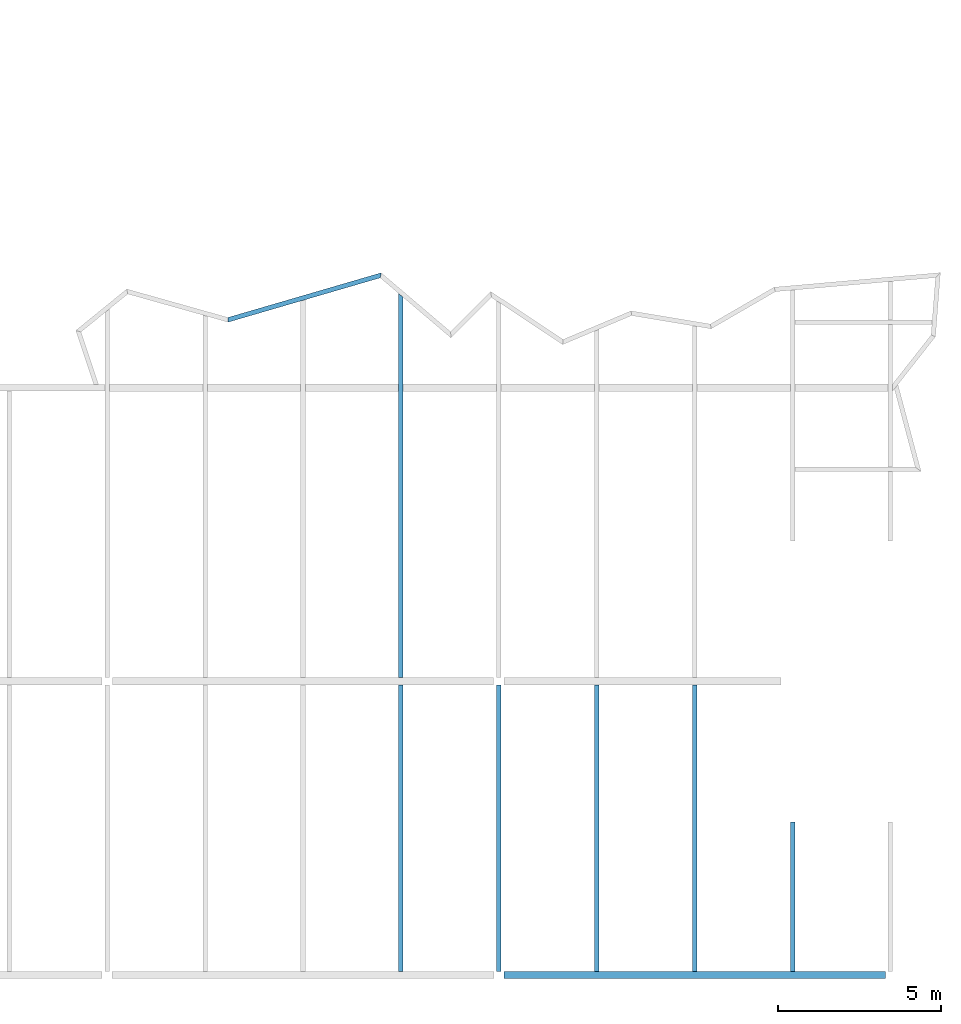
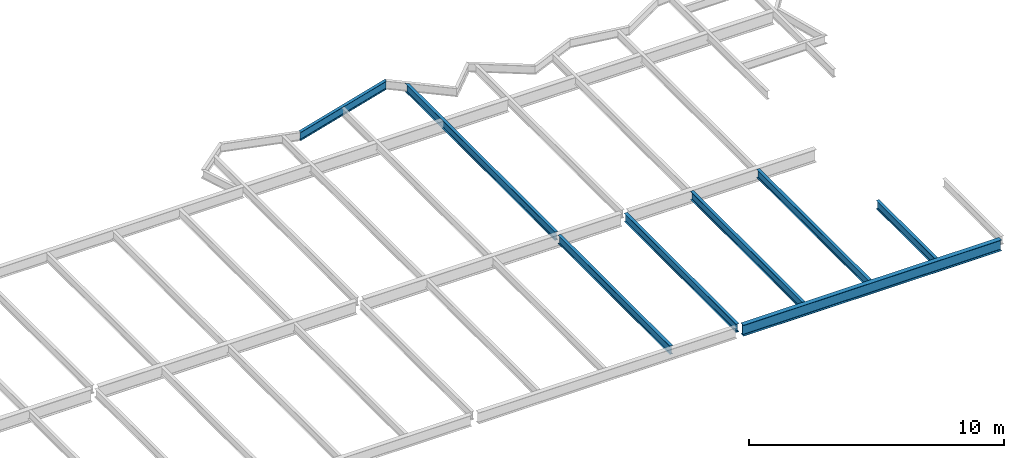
# One storey, part 20 of 23: 8 beams.
"""IFC2X3 building model written with IfcOpenShell, lengths in millimetres."""

import ifcopenshell
import ifcopenshell.guid

model = None  # the IFC model being written
_history = None  # IfcOwnerHistory: only IFC2X3 demands one
_inside = {}  # id of a spatial element -> (the spatial element, [elements in it])
_under = {}  # id of a project, library or spatial element -> (it, [spatial elements below it])
_declared = {}  # id of a project -> (the project, [libraries it declares])
_typed = {}  # id of a type object -> (the type object, [elements of that type])
_made_of = {}  # id of a material, layer set ... -> (it, [elements and type objects made of it])


def new_model(schema):
    """Start an empty IFC model of exactly this schema.

    Asked for "IFC4X3", IfcOpenShell would pick the latest addendum, in which some entities
    have other attributes; the version numbers below select the first issue.
    IFC2X3 requires an IfcOwnerHistory on every rooted entity: one is made here for all.
    """
    global model, _history
    if schema == "IFC4X3":
        model = ifcopenshell.file(schema_version=(4, 3, 0, 0))
    else:
        model = ifcopenshell.file(schema=schema)
    _inside.clear()
    _under.clear()
    _declared.clear()
    _typed.clear()
    _made_of.clear()
    _history = None
    if model.schema == "IFC2X3":
        org = make("IfcOrganization", Name="unknown")
        user = make(
            "IfcPersonAndOrganization",
            ThePerson=make("IfcPerson", FamilyName="unknown"),
            TheOrganization=org,
        )
        app = make(
            "IfcApplication",
            ApplicationDeveloper=org,
            Version="unknown",
            ApplicationFullName="unknown",
            ApplicationIdentifier="unknown",
        )
        _history = make(
            "IfcOwnerHistory",
            OwningUser=user,
            OwningApplication=app,
            ChangeAction="ADDED",
            CreationDate=0,
        )
    return model


def make(cls, **values):
    """One entity of the class cls with the attributes given. An attribute that is None is left unset."""
    return model.create_entity(
        cls, **{name: value for name, value in values.items() if value is not None}
    )


def rooted(cls, **values):
    """An entity with a GlobalId (a new one), such as an element, a storey or a relation."""
    return make(cls, GlobalId=ifcopenshell.guid.new(), OwnerHistory=_history, **values)


def si_unit(unit_type, name, prefix=None):
    """IfcSIUnit, for example si_unit("LENGTHUNIT", "METRE", prefix="MILLI")."""
    return make("IfcSIUnit", UnitType=unit_type, Prefix=prefix, Name=name)


def assignment(units):
    """IfcUnitAssignment: the units of a project."""
    return None if units is None else make("IfcUnitAssignment", Units=units)


def point(xyz):
    """IfcCartesianPoint."""
    return None if xyz is None else make("IfcCartesianPoint", Coordinates=xyz)


def direction(xyz):
    """IfcDirection."""
    return None if xyz is None else make("IfcDirection", DirectionRatios=xyz)


def frame(location, z_axis=None, x_axis=None):
    """IfcAxis2Placement3D, a coordinate frame: its origin and axes. An axis left out is left unset."""
    return make(
        "IfcAxis2Placement3D",
        Location=point(location),
        Axis=direction(z_axis),
        RefDirection=direction(x_axis),
    )


def origin():
    """The frame at (0, 0, 0) with its axes left unset."""
    return frame((0.0, 0.0, 0.0))


def place(relative_to, where):
    """IfcLocalPlacement: puts the frame where relative to a parent placement (None: the world)."""
    return make(
        "IfcLocalPlacement", PlacementRelTo=relative_to, RelativePlacement=where
    )


def context(
    kind, dimensions, precision=None, world=None, true_north=None, identifier=None
):
    """IfcGeometricRepresentationContext, for example the 3D "Model" context."""
    return make(
        "IfcGeometricRepresentationContext",
        ContextIdentifier=identifier,
        ContextType=kind,
        CoordinateSpaceDimension=dimensions,
        Precision=precision,
        WorldCoordinateSystem=world,
        TrueNorth=true_north,
    )


def project(units=None, contexts=None):
    """IfcProject with its units and contexts."""
    return rooted(
        "IfcProject",
        Name="project",
        RepresentationContexts=contexts,
        UnitsInContext=assignment(units),
    )


def spatial(cls, under=None, at=None, **own):
    """A site, building, storey or space (cls), placed at a placement, below another one or the project."""
    s = rooted(cls, ObjectPlacement=at, **own)
    if under is not None:
        _under.setdefault(under.id(), (under, []))[1].append(s)
    return s


def faces_of(points, faces, orient=None, outer=None):
    """IfcFace entities. A face is a list of loops; a loop is a list of indices into points, from 0.

    orient and outer hold one flag for each loop. By default every Orientation is true, the
    first loop of a face is its IfcFaceOuterBound and the others are IfcFaceBound.
    """
    made = []
    for i, loops in enumerate(faces):
        bounds = []
        for j, loop in enumerate(loops):
            is_outer = j == 0 if outer is None else outer[i][j]
            bounds.append(
                make(
                    "IfcFaceOuterBound" if is_outer else "IfcFaceBound",
                    Bound=make("IfcPolyLoop", Polygon=[points[k] for k in loop]),
                    Orientation=True if orient is None else orient[i][j],
                )
            )
        made.append(make("IfcFace", Bounds=bounds))
    return made


def faceted_brep(points, faces, orient=None, outer=None, voids=None):
    """IfcFacetedBrep: a solid bounded by flat faces; with voids (closed shells), ...WithVoids."""
    shared = [point(p) for p in points]
    hull = make("IfcClosedShell", CfsFaces=faces_of(shared, faces, orient, outer))
    if voids is None:
        return make("IfcFacetedBrep", Outer=hull)
    return make(
        "IfcFacetedBrepWithVoids",
        Outer=hull,
        Voids=[
            make(cls, CfsFaces=faces_of(shared, fs, o, b)) for cls, fs, o, b in voids
        ],
    )


def shape(context_of_items, identifier, shape_type, items):
    """IfcShapeRepresentation: the items that make up one representation, for example the "Body"."""
    return make(
        "IfcShapeRepresentation",
        ContextOfItems=context_of_items,
        RepresentationIdentifier=identifier,
        RepresentationType=shape_type,
        Items=items,
    )


def material(Name=None, Category=None):
    """IfcMaterial."""
    return make("IfcMaterial", Name=Name, Category=Category)


def made_of(thing, what):
    """Note that an element or type object is made of a material, layer set ...; save() writes the relation."""
    if what is not None:
        _made_of.setdefault(what.id(), (what, []))[1].append(thing)
    return thing


def element(
    cls,
    number,
    at=None,
    inside=None,
    cuts=None,
    type_object=None,
    material=None,
    context=None,
    identifier="Body",
    shape_type=None,
    held_by="IfcProductDefinitionShape",
    body=None,
    shapes=None,
    **own,
):
    """One element of the class cls, such as IfcWall. Its Tag is "e" and its number.

    at: its placement. inside: the storey or other place that contains it. cuts: it is an
    opening in that element (IfcRelVoidsElement). A single representation is given by context,
    identifier, shape_type and body (its items); several are given by shapes. held_by: the class
    of the entity that holds the representations. save() writes the other relations.
    """
    e = rooted(cls, Tag="e%d" % number, ObjectPlacement=at, **own)
    if body is not None:
        shapes = [shape(context, identifier, shape_type, body)]
    if shapes is not None:
        e.Representation = make(held_by, Representations=shapes)
    if inside is not None:
        _inside.setdefault(inside.id(), (inside, []))[1].append(e)
    if cuts is not None:
        rooted(
            "IfcRelVoidsElement", RelatingBuildingElement=cuts, RelatedOpeningElement=e
        )
    if type_object is not None:
        _typed.setdefault(type_object.id(), (type_object, []))[1].append(e)
    return made_of(e, material)


def aggregate(whole, parts):
    """IfcRelAggregates: a whole, such as a stair, and the parts it consists of."""
    return rooted("IfcRelAggregates", RelatingObject=whole, RelatedObjects=parts)


def save(model, path):
    """Write the relations noted so far, then the file.

    IfcRelAggregates (storeys below a building ...), IfcRelContainedInSpatialStructure (elements
    in a storey), IfcRelDefinesByType, IfcRelAssociatesMaterial and IfcRelDeclares: one each for
    every whole, place, type object, material and project.
    """
    for whole, parts in _under.values():
        aggregate(whole, parts)
    for where, things in _inside.values():
        rooted(
            "IfcRelContainedInSpatialStructure",
            RelatedElements=things,
            RelatingStructure=where,
        )
    for kind, things in _typed.values():
        rooted("IfcRelDefinesByType", RelatedObjects=things, RelatingType=kind)
    for what, things in _made_of.values():
        rooted("IfcRelAssociatesMaterial", RelatedObjects=things, RelatingMaterial=what)
    for by, libraries in _declared.values():
        rooted("IfcRelDeclares", RelatingContext=by, RelatedDefinitions=libraries)
    model.write(path)


model = new_model("IFC2X3")

# Units and contexts
context_of_model = context(None, 3, precision=1e-05, world=origin())
ifc_project = project(units=[si_unit("LENGTHUNIT", "METRE", prefix="MILLI")], contexts=[context_of_model])

# Building, storey
building = spatial("IfcBuilding", under=ifc_project, Name="Building", CompositionType="ELEMENT")
storey = spatial("IfcBuildingStorey", under=building, Name="FL5-FRM", CompositionType="ELEMENT")

# Beams
ifc_material_1 = material(Name="A992")
beam_1_placement = place(None, origin())
element("IfcBeam", 1, at=beam_1_placement, inside=storey, material=ifc_material_1, Name="B839", context=context_of_model, shape_type="Brep", body=[
    faceted_brep([(69070.0, 9104.5, 17474.0), (68930.0, 9104.5, 17474.0), (68930.0, 17885.5, 17474.0), (69070.0, 17885.5, 17474.0), (68930.0, 9104.5, 17482.8), (68930.0, 17885.5, 17482.8), (68986.6, 9104.5, 17482.8), (68986.6, 17885.5, 17482.8), (68989.2, 9104.5, 17483.1), (68989.2, 17885.5, 17483.1), (68991.7, 9104.5, 17484.2), (68991.7, 17885.5, 17484.2), (68993.8, 9104.5, 17485.8), (68993.8, 17885.5, 17485.8), (68995.4, 9104.5, 17487.9), (68995.4, 17885.5, 17487.9), (68996.5, 9104.5, 17490.4), (68996.5, 17885.5, 17490.4), (68996.8, 9104.5, 17493.0), (68996.8, 17885.5, 17493.0), (68996.8, 9104.5, 17854.0), (68996.8, 17885.5, 17854.0), (68996.5, 9104.5, 17856.6), (68996.5, 17885.5, 17856.6), (68995.4, 9104.5, 17859.1), (68995.4, 17885.5, 17859.1), (68993.8, 9104.5, 17861.2), (68993.8, 17885.5, 17861.2), (68991.7, 9104.5, 17862.8), (68991.7, 17885.5, 17862.8), (68989.2, 9104.5, 17863.9), (68989.2, 17885.5, 17863.9), (68986.6, 9104.5, 17864.2), (68986.6, 17885.5, 17864.2), (68930.0, 9104.5, 17864.2), (68930.0, 17885.5, 17864.2), (68930.0, 9104.5, 17873.0), (68930.0, 17885.5, 17873.0), (69070.0, 9104.5, 17873.0), (69070.0, 17885.5, 17873.0), (69070.0, 9104.5, 17864.2), (69070.0, 17885.5, 17864.2), (69013.4, 9104.5, 17864.2), (69013.4, 17885.5, 17864.2), (69010.8, 9104.5, 17863.9), (69010.8, 17885.5, 17863.9), (69008.3, 9104.5, 17862.8), (69008.3, 17885.5, 17862.8), (69006.2, 9104.5, 17861.2), (69006.2, 17885.5, 17861.2), (69004.6, 9104.5, 17859.1), (69004.6, 17885.5, 17859.1), (69003.5, 9104.5, 17856.6), (69003.5, 17885.5, 17856.6), (69003.2, 9104.5, 17854.0), (69003.2, 17885.5, 17854.0), (69003.2, 9104.5, 17493.0), (69003.2, 17885.5, 17493.0), (69003.5, 9104.5, 17490.4), (69003.5, 17885.5, 17490.4), (69004.6, 9104.5, 17487.9), (69004.6, 17885.5, 17487.9), (69006.2, 9104.5, 17485.8), (69006.2, 17885.5, 17485.8), (69008.3, 9104.5, 17484.2), (69008.3, 17885.5, 17484.2), (69010.8, 9104.5, 17483.1), (69010.8, 17885.5, 17483.1), (69013.4, 9104.5, 17482.8), (69013.4, 17885.5, 17482.8), (69070.0, 9104.5, 17482.8), (69070.0, 17885.5, 17482.8)], [[[0, 1, 2, 3]], [[1, 4, 5, 2]], [[4, 6, 7, 5]], [[6, 8, 9, 7]], [[8, 10, 11, 9]], [[10, 12, 13, 11]], [[12, 14, 15, 13]], [[14, 16, 17, 15]], [[16, 18, 19, 17]], [[18, 20, 21, 19]], [[20, 22, 23, 21]], [[22, 24, 25, 23]], [[24, 26, 27, 25]], [[26, 28, 29, 27]], [[28, 30, 31, 29]], [[30, 32, 33, 31]], [[32, 34, 35, 33]], [[34, 36, 37, 35]], [[36, 38, 39, 37]], [[38, 40, 41, 39]], [[40, 42, 43, 41]], [[42, 44, 45, 43]], [[44, 46, 47, 45]], [[46, 48, 49, 47]], [[48, 50, 51, 49]], [[50, 52, 53, 51]], [[52, 54, 55, 53]], [[54, 56, 57, 55]], [[56, 58, 59, 57]], [[58, 60, 61, 59]], [[60, 62, 63, 61]], [[62, 64, 65, 63]], [[64, 66, 67, 65]], [[66, 68, 69, 67]], [[68, 70, 71, 69]], [[70, 0, 3, 71]], [[0, 70, 68, 66, 64, 62, 60, 58, 56, 54, 52, 50, 48, 46, 44, 42, 40, 38, 36, 34, 32, 30, 28, 26, 24, 22, 20, 18, 16, 14, 12, 10, 8, 6, 4, 1]], [[3, 2, 5, 7, 9, 11, 13, 15, 17, 19, 21, 23, 25, 27, 29, 31, 33, 35, 37, 39, 41, 43, 45, 47, 49, 51, 53, 55, 57, 59, 61, 63, 65, 67, 69, 71]]]),
])
ifc_material_2 = material(Name="A992")
beam_2_placement = place(None, origin())
element("IfcBeam", 2, at=beam_2_placement, inside=storey, material=ifc_material_2, Name="B845", context=context_of_model, shape_type="Brep", body=[
    faceted_brep([(75070.0, 9104.5, 17474.0), (74930.0, 9104.5, 17474.0), (74930.0, 17885.5, 17474.0), (75070.0, 17885.5, 17474.0), (74930.0, 9104.5, 17482.8), (74930.0, 17885.5, 17482.8), (74986.6, 9104.5, 17482.8), (74986.6, 17885.5, 17482.8), (74989.2, 9104.5, 17483.1), (74989.2, 17885.5, 17483.1), (74991.7, 9104.5, 17484.2), (74991.7, 17885.5, 17484.2), (74993.8, 9104.5, 17485.8), (74993.8, 17885.5, 17485.8), (74995.4, 9104.5, 17487.9), (74995.4, 17885.5, 17487.9), (74996.5, 9104.5, 17490.4), (74996.5, 17885.5, 17490.4), (74996.8, 9104.5, 17493.0), (74996.8, 17885.5, 17493.0), (74996.8, 9104.5, 17854.0), (74996.8, 17885.5, 17854.0), (74996.5, 9104.5, 17856.6), (74996.5, 17885.5, 17856.6), (74995.4, 9104.5, 17859.1), (74995.4, 17885.5, 17859.1), (74993.8, 9104.5, 17861.2), (74993.8, 17885.5, 17861.2), (74991.7, 9104.5, 17862.8), (74991.7, 17885.5, 17862.8), (74989.2, 9104.5, 17863.9), (74989.2, 17885.5, 17863.9), (74986.6, 9104.5, 17864.2), (74986.6, 17885.5, 17864.2), (74930.0, 9104.5, 17864.2), (74930.0, 17885.5, 17864.2), (74930.0, 9104.5, 17873.0), (74930.0, 17885.5, 17873.0), (75070.0, 9104.5, 17873.0), (75070.0, 17885.5, 17873.0), (75070.0, 9104.5, 17864.2), (75070.0, 17885.5, 17864.2), (75013.4, 9104.5, 17864.2), (75013.4, 17885.5, 17864.2), (75010.8, 9104.5, 17863.9), (75010.8, 17885.5, 17863.9), (75008.3, 9104.5, 17862.8), (75008.3, 17885.5, 17862.8), (75006.2, 9104.5, 17861.2), (75006.2, 17885.5, 17861.2), (75004.6, 9104.5, 17859.1), (75004.6, 17885.5, 17859.1), (75003.5, 9104.5, 17856.6), (75003.5, 17885.5, 17856.6), (75003.2, 9104.5, 17854.0), (75003.2, 17885.5, 17854.0), (75003.2, 9104.5, 17493.0), (75003.2, 17885.5, 17493.0), (75003.5, 9104.5, 17490.4), (75003.5, 17885.5, 17490.4), (75004.6, 9104.5, 17487.9), (75004.6, 17885.5, 17487.9), (75006.2, 9104.5, 17485.8), (75006.2, 17885.5, 17485.8), (75008.3, 9104.5, 17484.2), (75008.3, 17885.5, 17484.2), (75010.8, 9104.5, 17483.1), (75010.8, 17885.5, 17483.1), (75013.4, 9104.5, 17482.8), (75013.4, 17885.5, 17482.8), (75070.0, 9104.5, 17482.8), (75070.0, 17885.5, 17482.8)], [[[0, 1, 2, 3]], [[1, 4, 5, 2]], [[4, 6, 7, 5]], [[6, 8, 9, 7]], [[8, 10, 11, 9]], [[10, 12, 13, 11]], [[12, 14, 15, 13]], [[14, 16, 17, 15]], [[16, 18, 19, 17]], [[18, 20, 21, 19]], [[20, 22, 23, 21]], [[22, 24, 25, 23]], [[24, 26, 27, 25]], [[26, 28, 29, 27]], [[28, 30, 31, 29]], [[30, 32, 33, 31]], [[32, 34, 35, 33]], [[34, 36, 37, 35]], [[36, 38, 39, 37]], [[38, 40, 41, 39]], [[40, 42, 43, 41]], [[42, 44, 45, 43]], [[44, 46, 47, 45]], [[46, 48, 49, 47]], [[48, 50, 51, 49]], [[50, 52, 53, 51]], [[52, 54, 55, 53]], [[54, 56, 57, 55]], [[56, 58, 59, 57]], [[58, 60, 61, 59]], [[60, 62, 63, 61]], [[62, 64, 65, 63]], [[64, 66, 67, 65]], [[66, 68, 69, 67]], [[68, 70, 71, 69]], [[70, 0, 3, 71]], [[0, 70, 68, 66, 64, 62, 60, 58, 56, 54, 52, 50, 48, 46, 44, 42, 40, 38, 36, 34, 32, 30, 28, 26, 24, 22, 20, 18, 16, 14, 12, 10, 8, 6, 4, 1]], [[3, 2, 5, 7, 9, 11, 13, 15, 17, 19, 21, 23, 25, 27, 29, 31, 33, 35, 37, 39, 41, 43, 45, 47, 49, 51, 53, 55, 57, 59, 61, 63, 65, 67, 69, 71]]]),
])
ifc_material_3 = material(Name="A992")
beam_3_placement = place(None, origin())
element("IfcBeam", 3, at=beam_3_placement, inside=storey, material=ifc_material_3, Name="B846", context=context_of_model, shape_type="Brep", body=[
    faceted_brep([(78070.0, 9104.5, 17474.0), (77930.0, 9104.5, 17474.0), (77930.0, 17885.5, 17474.0), (78070.0, 17885.5, 17474.0), (77930.0, 9104.5, 17482.8), (77930.0, 17885.5, 17482.8), (77986.6, 9104.5, 17482.8), (77986.6, 17885.5, 17482.8), (77989.2, 9104.5, 17483.1), (77989.2, 17885.5, 17483.1), (77991.7, 9104.5, 17484.2), (77991.7, 17885.5, 17484.2), (77993.8, 9104.5, 17485.8), (77993.8, 17885.5, 17485.8), (77995.4, 9104.5, 17487.9), (77995.4, 17885.5, 17487.9), (77996.5, 9104.5, 17490.4), (77996.5, 17885.5, 17490.4), (77996.8, 9104.5, 17493.0), (77996.8, 17885.5, 17493.0), (77996.8, 9104.5, 17854.0), (77996.8, 17885.5, 17854.0), (77996.5, 9104.5, 17856.6), (77996.5, 17885.5, 17856.6), (77995.4, 9104.5, 17859.1), (77995.4, 17885.5, 17859.1), (77993.8, 9104.5, 17861.2), (77993.8, 17885.5, 17861.2), (77991.7, 9104.5, 17862.8), (77991.7, 17885.5, 17862.8), (77989.2, 9104.5, 17863.9), (77989.2, 17885.5, 17863.9), (77986.6, 9104.5, 17864.2), (77986.6, 17885.5, 17864.2), (77930.0, 9104.5, 17864.2), (77930.0, 17885.5, 17864.2), (77930.0, 9104.5, 17873.0), (77930.0, 17885.5, 17873.0), (78070.0, 9104.5, 17873.0), (78070.0, 17885.5, 17873.0), (78070.0, 9104.5, 17864.2), (78070.0, 17885.5, 17864.2), (78013.4, 9104.5, 17864.2), (78013.4, 17885.5, 17864.2), (78010.8, 9104.5, 17863.9), (78010.8, 17885.5, 17863.9), (78008.3, 9104.5, 17862.8), (78008.3, 17885.5, 17862.8), (78006.2, 9104.5, 17861.2), (78006.2, 17885.5, 17861.2), (78004.6, 9104.5, 17859.1), (78004.6, 17885.5, 17859.1), (78003.5, 9104.5, 17856.6), (78003.5, 17885.5, 17856.6), (78003.2, 9104.5, 17854.0), (78003.2, 17885.5, 17854.0), (78003.2, 9104.5, 17493.0), (78003.2, 17885.5, 17493.0), (78003.5, 9104.5, 17490.4), (78003.5, 17885.5, 17490.4), (78004.6, 9104.5, 17487.9), (78004.6, 17885.5, 17487.9), (78006.2, 9104.5, 17485.8), (78006.2, 17885.5, 17485.8), (78008.3, 9104.5, 17484.2), (78008.3, 17885.5, 17484.2), (78010.8, 9104.5, 17483.1), (78010.8, 17885.5, 17483.1), (78013.4, 9104.5, 17482.8), (78013.4, 17885.5, 17482.8), (78070.0, 9104.5, 17482.8), (78070.0, 17885.5, 17482.8)], [[[0, 1, 2, 3]], [[1, 4, 5, 2]], [[4, 6, 7, 5]], [[6, 8, 9, 7]], [[8, 10, 11, 9]], [[10, 12, 13, 11]], [[12, 14, 15, 13]], [[14, 16, 17, 15]], [[16, 18, 19, 17]], [[18, 20, 21, 19]], [[20, 22, 23, 21]], [[22, 24, 25, 23]], [[24, 26, 27, 25]], [[26, 28, 29, 27]], [[28, 30, 31, 29]], [[30, 32, 33, 31]], [[32, 34, 35, 33]], [[34, 36, 37, 35]], [[36, 38, 39, 37]], [[38, 40, 41, 39]], [[40, 42, 43, 41]], [[42, 44, 45, 43]], [[44, 46, 47, 45]], [[46, 48, 49, 47]], [[48, 50, 51, 49]], [[50, 52, 53, 51]], [[52, 54, 55, 53]], [[54, 56, 57, 55]], [[56, 58, 59, 57]], [[58, 60, 61, 59]], [[60, 62, 63, 61]], [[62, 64, 65, 63]], [[64, 66, 67, 65]], [[66, 68, 69, 67]], [[68, 70, 71, 69]], [[70, 0, 3, 71]], [[0, 70, 68, 66, 64, 62, 60, 58, 56, 54, 52, 50, 48, 46, 44, 42, 40, 38, 36, 34, 32, 30, 28, 26, 24, 22, 20, 18, 16, 14, 12, 10, 8, 6, 4, 1]], [[3, 2, 5, 7, 9, 11, 13, 15, 17, 19, 21, 23, 25, 27, 29, 31, 33, 35, 37, 39, 41, 43, 45, 47, 49, 51, 53, 55, 57, 59, 61, 63, 65, 67, 69, 71]]]),
])
ifc_material_4 = material(Name="A992")
beam_4_placement = place(None, origin())
element("IfcBeam", 4, at=beam_4_placement, inside=storey, material=ifc_material_4, Name="B847", context=context_of_model, shape_type="Brep", body=[
    faceted_brep([(81070.0, 9104.5, 17474.0), (80930.0, 9104.5, 17474.0), (80930.0, 13700.0, 17474.0), (81070.0, 13700.0, 17474.0), (80930.0, 9104.5, 17482.8), (80930.0, 13700.0, 17482.8), (80986.6, 9104.5, 17482.8), (80986.6, 13700.0, 17482.8), (80989.2, 9104.5, 17483.1), (80989.2, 13700.0, 17483.1), (80991.7, 9104.5, 17484.2), (80991.7, 13700.0, 17484.2), (80993.8, 9104.5, 17485.8), (80993.8, 13700.0, 17485.8), (80995.4, 9104.5, 17487.9), (80995.4, 13700.0, 17487.9), (80996.5, 9104.5, 17490.4), (80996.5, 13700.0, 17490.4), (80996.8, 9104.5, 17493.0), (80996.8, 13700.0, 17493.0), (80996.8, 9104.5, 17854.0), (80996.8, 13700.0, 17854.0), (80996.5, 9104.5, 17856.6), (80996.5, 13700.0, 17856.6), (80995.4, 9104.5, 17859.1), (80995.4, 13700.0, 17859.1), (80993.8, 9104.5, 17861.2), (80993.8, 13700.0, 17861.2), (80991.7, 9104.5, 17862.8), (80991.7, 13700.0, 17862.8), (80989.2, 9104.5, 17863.9), (80989.2, 13700.0, 17863.9), (80986.6, 9104.5, 17864.2), (80986.6, 13700.0, 17864.2), (80930.0, 9104.5, 17864.2), (80930.0, 13700.0, 17864.2), (80930.0, 9104.5, 17873.0), (80930.0, 13700.0, 17873.0), (81070.0, 9104.5, 17873.0), (81070.0, 13700.0, 17873.0), (81070.0, 9104.5, 17864.2), (81070.0, 13700.0, 17864.2), (81013.4, 9104.5, 17864.2), (81013.4, 13700.0, 17864.2), (81010.8, 9104.5, 17863.9), (81010.8, 13700.0, 17863.9), (81008.3, 9104.5, 17862.8), (81008.3, 13700.0, 17862.8), (81006.2, 9104.5, 17861.2), (81006.2, 13700.0, 17861.2), (81004.6, 9104.5, 17859.1), (81004.6, 13700.0, 17859.1), (81003.5, 9104.5, 17856.6), (81003.5, 13700.0, 17856.6), (81003.2, 9104.5, 17854.0), (81003.2, 13700.0, 17854.0), (81003.2, 9104.5, 17493.0), (81003.2, 13700.0, 17493.0), (81003.5, 9104.5, 17490.4), (81003.5, 13700.0, 17490.4), (81004.6, 9104.5, 17487.9), (81004.6, 13700.0, 17487.9), (81006.2, 9104.5, 17485.8), (81006.2, 13700.0, 17485.8), (81008.3, 9104.5, 17484.2), (81008.3, 13700.0, 17484.2), (81010.8, 9104.5, 17483.1), (81010.8, 13700.0, 17483.1), (81013.4, 9104.5, 17482.8), (81013.4, 13700.0, 17482.8), (81070.0, 9104.5, 17482.8), (81070.0, 13700.0, 17482.8)], [[[0, 1, 2, 3]], [[1, 4, 5, 2]], [[4, 6, 7, 5]], [[6, 8, 9, 7]], [[8, 10, 11, 9]], [[10, 12, 13, 11]], [[12, 14, 15, 13]], [[14, 16, 17, 15]], [[16, 18, 19, 17]], [[18, 20, 21, 19]], [[20, 22, 23, 21]], [[22, 24, 25, 23]], [[24, 26, 27, 25]], [[26, 28, 29, 27]], [[28, 30, 31, 29]], [[30, 32, 33, 31]], [[32, 34, 35, 33]], [[34, 36, 37, 35]], [[36, 38, 39, 37]], [[38, 40, 41, 39]], [[40, 42, 43, 41]], [[42, 44, 45, 43]], [[44, 46, 47, 45]], [[46, 48, 49, 47]], [[48, 50, 51, 49]], [[50, 52, 53, 51]], [[52, 54, 55, 53]], [[54, 56, 57, 55]], [[56, 58, 59, 57]], [[58, 60, 61, 59]], [[60, 62, 63, 61]], [[62, 64, 65, 63]], [[64, 66, 67, 65]], [[66, 68, 69, 67]], [[68, 70, 71, 69]], [[70, 0, 3, 71]], [[0, 70, 68, 66, 64, 62, 60, 58, 56, 54, 52, 50, 48, 46, 44, 42, 40, 38, 36, 34, 32, 30, 28, 26, 24, 22, 20, 18, 16, 14, 12, 10, 8, 6, 4, 1]], [[3, 2, 5, 7, 9, 11, 13, 15, 17, 19, 21, 23, 25, 27, 29, 31, 33, 35, 37, 39, 41, 43, 45, 47, 49, 51, 53, 55, 57, 59, 61, 63, 65, 67, 69, 71]]]),
])
ifc_material_5 = material(Name="A992")
beam_5_placement = place(None, origin())
element("IfcBeam", 5, at=beam_5_placement, inside=storey, material=ifc_material_5, Name="B848", context=context_of_model, shape_type="Brep", body=[
    faceted_brep([(72070.0, 9104.5, 17474.0), (71930.0, 9104.5, 17474.0), (71930.0, 17885.5, 17474.0), (72070.0, 17885.5, 17474.0), (71930.0, 9104.5, 17482.8), (71930.0, 17885.5, 17482.8), (71986.6, 9104.5, 17482.8), (71986.6, 17885.5, 17482.8), (71989.2, 9104.5, 17483.1), (71989.2, 17885.5, 17483.1), (71991.7, 9104.5, 17484.2), (71991.7, 17885.5, 17484.2), (71993.8, 9104.5, 17485.8), (71993.8, 17885.5, 17485.8), (71995.4, 9104.5, 17487.9), (71995.4, 17885.5, 17487.9), (71996.5, 9104.5, 17490.4), (71996.5, 17885.5, 17490.4), (71996.8, 9104.5, 17493.0), (71996.8, 17885.5, 17493.0), (71996.8, 9104.5, 17854.0), (71996.8, 17885.5, 17854.0), (71996.5, 9104.5, 17856.6), (71996.5, 17885.5, 17856.6), (71995.4, 9104.5, 17859.1), (71995.4, 17885.5, 17859.1), (71993.8, 9104.5, 17861.2), (71993.8, 17885.5, 17861.2), (71991.7, 9104.5, 17862.8), (71991.7, 17885.5, 17862.8), (71989.2, 9104.5, 17863.9), (71989.2, 17885.5, 17863.9), (71986.6, 9104.5, 17864.2), (71986.6, 17885.5, 17864.2), (71930.0, 9104.5, 17864.2), (71930.0, 17885.5, 17864.2), (71930.0, 9104.5, 17873.0), (71930.0, 17885.5, 17873.0), (72070.0, 9104.5, 17873.0), (72070.0, 17885.5, 17873.0), (72070.0, 9104.5, 17864.2), (72070.0, 17885.5, 17864.2), (72013.4, 9104.5, 17864.2), (72013.4, 17885.5, 17864.2), (72010.8, 9104.5, 17863.9), (72010.8, 17885.5, 17863.9), (72008.3, 9104.5, 17862.8), (72008.3, 17885.5, 17862.8), (72006.2, 9104.5, 17861.2), (72006.2, 17885.5, 17861.2), (72004.6, 9104.5, 17859.1), (72004.6, 17885.5, 17859.1), (72003.5, 9104.5, 17856.6), (72003.5, 17885.5, 17856.6), (72003.2, 9104.5, 17854.0), (72003.2, 17885.5, 17854.0), (72003.2, 9104.5, 17493.0), (72003.2, 17885.5, 17493.0), (72003.5, 9104.5, 17490.4), (72003.5, 17885.5, 17490.4), (72004.6, 9104.5, 17487.9), (72004.6, 17885.5, 17487.9), (72006.2, 9104.5, 17485.8), (72006.2, 17885.5, 17485.8), (72008.3, 9104.5, 17484.2), (72008.3, 17885.5, 17484.2), (72010.8, 9104.5, 17483.1), (72010.8, 17885.5, 17483.1), (72013.4, 9104.5, 17482.8), (72013.4, 17885.5, 17482.8), (72070.0, 9104.5, 17482.8), (72070.0, 17885.5, 17482.8)], [[[0, 1, 2, 3]], [[1, 4, 5, 2]], [[4, 6, 7, 5]], [[6, 8, 9, 7]], [[8, 10, 11, 9]], [[10, 12, 13, 11]], [[12, 14, 15, 13]], [[14, 16, 17, 15]], [[16, 18, 19, 17]], [[18, 20, 21, 19]], [[20, 22, 23, 21]], [[22, 24, 25, 23]], [[24, 26, 27, 25]], [[26, 28, 29, 27]], [[28, 30, 31, 29]], [[30, 32, 33, 31]], [[32, 34, 35, 33]], [[34, 36, 37, 35]], [[36, 38, 39, 37]], [[38, 40, 41, 39]], [[40, 42, 43, 41]], [[42, 44, 45, 43]], [[44, 46, 47, 45]], [[46, 48, 49, 47]], [[48, 50, 51, 49]], [[50, 52, 53, 51]], [[52, 54, 55, 53]], [[54, 56, 57, 55]], [[56, 58, 59, 57]], [[58, 60, 61, 59]], [[60, 62, 63, 61]], [[62, 64, 65, 63]], [[64, 66, 67, 65]], [[66, 68, 69, 67]], [[68, 70, 71, 69]], [[70, 0, 3, 71]], [[0, 70, 68, 66, 64, 62, 60, 58, 56, 54, 52, 50, 48, 46, 44, 42, 40, 38, 36, 34, 32, 30, 28, 26, 24, 22, 20, 18, 16, 14, 12, 10, 8, 6, 4, 1]], [[3, 2, 5, 7, 9, 11, 13, 15, 17, 19, 21, 23, 25, 27, 29, 31, 33, 35, 37, 39, 41, 43, 45, 47, 49, 51, 53, 55, 57, 59, 61, 63, 65, 67, 69, 71]]]),
])
ifc_material_6 = material(Name="A992")
beam_6_placement = place(None, origin())
element("IfcBeam", 6, at=beam_6_placement, inside=storey, material=ifc_material_6, Name="Column599", context=context_of_model, shape_type="Brep", body=[
    faceted_brep([(72153.0, 8895.5, 17345.0), (72153.0, 9104.5, 17345.0), (83848.5, 9104.5, 17345.0), (83848.5, 8895.5, 17345.0), (72153.0, 9104.5, 17358.3), (83848.5, 9104.5, 17358.3), (72153.0, 9017.45, 17358.3), (83848.5, 9017.45, 17358.3), (72153.0, 9014.16, 17358.7), (83848.5, 9014.16, 17358.7), (72153.0, 9011.1, 17360.0), (83848.5, 9011.1, 17360.0), (72153.0, 9008.47, 17362.0), (83848.5, 9008.47, 17362.0), (72153.0, 9006.45, 17364.7), (83848.5, 9006.45, 17364.7), (72153.0, 9005.18, 17367.7), (83848.5, 9005.18, 17367.7), (72153.0, 9004.75, 17371.0), (83848.5, 9004.75, 17371.0), (72153.0, 9004.75, 17847.0), (83848.5, 9004.75, 17847.0), (72153.0, 9005.18, 17850.3), (83848.5, 9005.18, 17850.3), (72153.0, 9006.45, 17853.3), (83848.5, 9006.45, 17853.3), (72153.0, 9008.47, 17856.0), (83848.5, 9008.47, 17856.0), (72153.0, 9011.1, 17858.0), (83848.5, 9011.1, 17858.0), (72153.0, 9014.16, 17859.3), (83848.5, 9014.16, 17859.3), (72153.0, 9017.45, 17859.7), (83848.5, 9017.45, 17859.7), (72153.0, 9104.5, 17859.7), (83848.5, 9104.5, 17859.7), (72153.0, 9104.5, 17873.0), (83848.5, 9104.5, 17873.0), (72153.0, 8895.5, 17873.0), (83848.5, 8895.5, 17873.0), (72153.0, 8895.5, 17859.7), (83848.5, 8895.5, 17859.7), (72153.0, 8982.55, 17859.7), (83848.5, 8982.55, 17859.7), (72153.0, 8985.84, 17859.3), (83848.5, 8985.84, 17859.3), (72153.0, 8988.9, 17858.0), (83848.5, 8988.9, 17858.0), (72153.0, 8991.53, 17856.0), (83848.5, 8991.53, 17856.0), (72153.0, 8993.55, 17853.3), (83848.5, 8993.55, 17853.3), (72153.0, 8994.82, 17850.3), (83848.5, 8994.82, 17850.3), (72153.0, 8995.25, 17847.0), (83848.5, 8995.25, 17847.0), (72153.0, 8995.25, 17371.0), (83848.5, 8995.25, 17371.0), (72153.0, 8994.82, 17367.7), (83848.5, 8994.82, 17367.7), (72153.0, 8993.55, 17364.7), (83848.5, 8993.55, 17364.7), (72153.0, 8991.53, 17362.0), (83848.5, 8991.53, 17362.0), (72153.0, 8988.9, 17360.0), (83848.5, 8988.9, 17360.0), (72153.0, 8985.84, 17358.7), (83848.5, 8985.84, 17358.7), (72153.0, 8982.55, 17358.3), (83848.5, 8982.55, 17358.3), (72153.0, 8895.5, 17358.3), (83848.5, 8895.5, 17358.3)], [[[0, 1, 2, 3]], [[1, 4, 5, 2]], [[4, 6, 7, 5]], [[6, 8, 9, 7]], [[8, 10, 11, 9]], [[10, 12, 13, 11]], [[12, 14, 15, 13]], [[14, 16, 17, 15]], [[16, 18, 19, 17]], [[18, 20, 21, 19]], [[20, 22, 23, 21]], [[22, 24, 25, 23]], [[24, 26, 27, 25]], [[26, 28, 29, 27]], [[28, 30, 31, 29]], [[30, 32, 33, 31]], [[32, 34, 35, 33]], [[34, 36, 37, 35]], [[36, 38, 39, 37]], [[38, 40, 41, 39]], [[40, 42, 43, 41]], [[42, 44, 45, 43]], [[44, 46, 47, 45]], [[46, 48, 49, 47]], [[48, 50, 51, 49]], [[50, 52, 53, 51]], [[52, 54, 55, 53]], [[54, 56, 57, 55]], [[56, 58, 59, 57]], [[58, 60, 61, 59]], [[60, 62, 63, 61]], [[62, 64, 65, 63]], [[64, 66, 67, 65]], [[66, 68, 69, 67]], [[68, 70, 71, 69]], [[70, 0, 3, 71]], [[0, 70, 68, 66, 64, 62, 60, 58, 56, 54, 52, 50, 48, 46, 44, 42, 40, 38, 36, 34, 32, 30, 28, 26, 24, 22, 20, 18, 16, 14, 12, 10, 8, 6, 4, 1]], [[3, 2, 5, 7, 9, 11, 13, 15, 17, 19, 21, 23, 25, 27, 29, 31, 33, 35, 37, 39, 41, 43, 45, 47, 49, 51, 53, 55, 57, 59, 61, 63, 65, 67, 69, 71]]]),
])
ifc_material_7 = material(Name="A992")
beam_7_placement = place(None, origin())
element("IfcBeam", 7, at=beam_7_placement, inside=storey, material=ifc_material_7, Name="B948", context=context_of_model, shape_type="Brep", body=[
    faceted_brep([(68930.0, 29886.4, 17474.0), (69070.0, 29767.4, 17474.0), (69070.0, 18114.5, 17474.0), (68930.0, 18114.5, 17474.0), (69070.0, 29767.4, 17482.8), (69070.0, 18114.5, 17482.8), (69013.4, 29815.5, 17482.8), (69013.4, 18114.5, 17482.8), (69012.0, 29816.7, 17482.9), (69011.9, 18114.5, 17482.9), (69010.5, 29818.0, 17483.2), (69010.5, 18114.5, 17483.2), (69009.2, 29819.1, 17483.7), (69009.2, 18114.5, 17483.7), (69007.9, 29820.2, 17484.4), (69007.9, 18114.5, 17484.4), (69006.7, 29821.2, 17485.3), (69006.7, 18114.5, 17485.3), (69005.7, 29822.1, 17486.3), (69005.7, 18114.5, 17486.3), (69004.8, 29822.8, 17487.4), (69004.8, 18114.5, 17487.5), (69004.1, 29823.4, 17488.7), (69004.1, 18114.5, 17488.8), (69003.6, 29823.8, 17490.1), (69003.6, 18114.5, 17490.1), (69003.3, 29824.1, 17491.5), (69003.3, 18114.5, 17491.5), (69003.2, 29824.2, 17493.0), (69003.2, 18114.5, 17493.0), (69003.2, 29824.2, 17854.0), (69003.2, 18114.5, 17854.0), (69003.3, 29824.1, 17855.5), (69003.3, 18114.5, 17855.5), (69003.6, 29823.8, 17856.9), (69003.6, 18114.5, 17856.9), (69004.1, 29823.4, 17858.3), (69004.1, 18114.5, 17858.2), (69004.8, 29822.8, 17859.6), (69004.8, 18114.5, 17859.5), (69005.7, 29822.1, 17860.7), (69005.7, 18114.5, 17860.7), (69006.7, 29821.2, 17861.7), (69006.7, 18114.5, 17861.7), (69007.9, 29820.2, 17862.6), (69007.9, 18114.5, 17862.6), (69009.2, 29819.1, 17863.3), (69009.2, 18114.5, 17863.3), (69010.5, 29818.0, 17863.8), (69010.5, 18114.5, 17863.8), (69012.0, 29816.7, 17864.1), (69011.9, 18114.5, 17864.1), (69013.4, 29815.5, 17864.2), (69013.4, 18114.5, 17864.2), (69070.0, 29767.4, 17864.2), (69070.0, 18114.5, 17864.2), (69070.0, 29767.4, 17873.0), (69070.0, 18114.5, 17873.0), (68930.0, 29886.4, 17873.0), (68930.0, 18114.5, 17873.0), (68930.0, 29886.4, 17864.2), (68930.0, 18114.5, 17864.2), (68986.6, 29838.3, 17864.2), (68986.6, 18114.5, 17864.2), (68988.0, 29837.1, 17864.1), (68988.1, 18114.5, 17864.1), (68989.5, 29835.9, 17863.8), (68989.5, 18114.5, 17863.8), (68990.8, 29834.7, 17863.3), (68990.8, 18114.5, 17863.3), (68992.1, 29833.6, 17862.6), (68992.1, 18114.5, 17862.6), (68993.3, 29832.6, 17861.7), (68993.3, 18114.5, 17861.7), (68994.3, 29831.8, 17860.7), (68994.3, 18114.5, 17860.7), (68995.2, 29831.0, 17859.6), (68995.2, 18114.5, 17859.5), (68995.9, 29830.4, 17858.3), (68995.9, 18114.5, 17858.2), (68996.4, 29830.0, 17856.9), (68996.4, 18114.5, 17856.9), (68996.7, 29829.7, 17855.5), (68996.7, 18114.5, 17855.5), (68996.8, 29829.6, 17854.0), (68996.8, 18114.5, 17854.0), (68996.8, 29829.6, 17493.0), (68996.8, 18114.5, 17493.0), (68996.7, 29829.7, 17491.5), (68996.7, 18114.5, 17491.5), (68996.4, 29830.0, 17490.1), (68996.4, 18114.5, 17490.1), (68995.9, 29830.4, 17488.7), (68995.9, 18114.5, 17488.8), (68995.2, 29831.0, 17487.4), (68995.2, 18114.5, 17487.5), (68994.3, 29831.8, 17486.3), (68994.3, 18114.5, 17486.3), (68993.3, 29832.6, 17485.3), (68993.3, 18114.5, 17485.3), (68992.1, 29833.6, 17484.4), (68992.1, 18114.5, 17484.4), (68990.8, 29834.7, 17483.7), (68990.8, 18114.5, 17483.7), (68989.5, 29835.9, 17483.2), (68989.5, 18114.5, 17483.2), (68988.0, 29837.1, 17482.9), (68988.1, 18114.5, 17482.9), (68986.6, 29838.3, 17482.8), (68986.6, 18114.5, 17482.8), (68930.0, 29886.4, 17482.8), (68930.0, 18114.5, 17482.8)], [[[0, 1, 2, 3]], [[1, 4, 5, 2]], [[4, 6, 7, 5]], [[6, 8, 9, 7]], [[8, 10, 11, 9]], [[10, 12, 13, 11]], [[12, 14, 15, 13]], [[14, 16, 17, 15]], [[16, 18, 19, 17]], [[18, 20, 21, 19]], [[20, 22, 23, 21]], [[22, 24, 25, 23]], [[24, 26, 27, 25]], [[26, 28, 29, 27]], [[28, 30, 31, 29]], [[30, 32, 33, 31]], [[32, 34, 35, 33]], [[34, 36, 37, 35]], [[36, 38, 39, 37]], [[38, 40, 41, 39]], [[40, 42, 43, 41]], [[42, 44, 45, 43]], [[44, 46, 47, 45]], [[46, 48, 49, 47]], [[48, 50, 51, 49]], [[50, 52, 53, 51]], [[52, 54, 55, 53]], [[54, 56, 57, 55]], [[56, 58, 59, 57]], [[58, 60, 61, 59]], [[60, 62, 63, 61]], [[62, 64, 65, 63]], [[64, 66, 67, 65]], [[66, 68, 69, 67]], [[68, 70, 71, 69]], [[70, 72, 73, 71]], [[72, 74, 75, 73]], [[74, 76, 77, 75]], [[76, 78, 79, 77]], [[78, 80, 81, 79]], [[80, 82, 83, 81]], [[82, 84, 85, 83]], [[84, 86, 87, 85]], [[86, 88, 89, 87]], [[88, 90, 91, 89]], [[90, 92, 93, 91]], [[92, 94, 95, 93]], [[94, 96, 97, 95]], [[96, 98, 99, 97]], [[98, 100, 101, 99]], [[100, 102, 103, 101]], [[102, 104, 105, 103]], [[104, 106, 107, 105]], [[106, 108, 109, 107]], [[108, 110, 111, 109]], [[110, 0, 3, 111]], [[0, 110, 108, 106, 104, 102, 100, 98, 96, 94, 92, 90, 88, 86, 84, 82, 80, 78, 76, 74, 72, 70, 68, 66, 64, 62, 60, 58, 56, 54, 52, 50, 48, 46, 44, 42, 40, 38, 36, 34, 32, 30, 28, 26, 24, 22, 20, 18, 16, 14, 12, 10, 8, 6, 4, 1]], [[3, 2, 5, 7, 9, 11, 13, 15, 17, 19, 21, 23, 25, 27, 29, 31, 33, 35, 37, 39, 41, 43, 45, 47, 49, 51, 53, 55, 57, 59, 61, 63, 65, 67, 69, 71, 73, 75, 77, 79, 81, 83, 85, 87, 89, 91, 93, 95, 97, 99, 101, 103, 105, 107, 109, 111]]]),
])
ifc_material_8 = material(Name="A992")
beam_8_placement = place(None, origin())
element("IfcBeam", 8, at=beam_8_placement, inside=storey, material=ifc_material_8, Name="B950", context=context_of_model, shape_type="Brep", body=[
    faceted_brep([(63702.9, 29007.1, 17474.0), (63702.2, 29152.7, 17474.0), (68398.0, 30522.3, 17474.0), (68364.8, 30366.8, 17474.0), (63702.2, 29152.7, 17482.8), (68398.0, 30522.3, 17482.8), (63702.4, 29093.8, 17482.8), (68384.6, 30459.5, 17482.8), (63702.4, 29092.3, 17482.9), (68384.2, 30457.9, 17482.9), (63702.5, 29090.8, 17483.2), (68383.9, 30456.3, 17483.2), (63702.5, 29089.4, 17483.7), (68383.6, 30454.8, 17483.7), (63702.5, 29088.1, 17484.4), (68383.3, 30453.4, 17484.4), (63702.5, 29086.9, 17485.3), (68383.0, 30452.1, 17485.3), (63702.5, 29085.8, 17486.3), (68382.8, 30450.9, 17486.3), (63702.5, 29084.9, 17487.5), (68382.6, 30449.9, 17487.5), (63702.5, 29084.2, 17488.8), (68382.4, 30449.2, 17488.8), (63702.5, 29083.7, 17490.1), (68382.3, 30448.6, 17490.1), (63702.5, 29083.3, 17491.5), (68382.2, 30448.3, 17491.5), (63702.5, 29083.2, 17493.0), (68382.2, 30448.1, 17493.0), (63702.5, 29083.2, 17854.0), (68382.2, 30448.1, 17854.0), (63702.5, 29083.3, 17855.5), (68382.2, 30448.3, 17855.5), (63702.5, 29083.7, 17856.9), (68382.3, 30448.6, 17856.9), (63702.5, 29084.2, 17858.2), (68382.4, 30449.2, 17858.2), (63702.5, 29084.9, 17859.5), (68382.6, 30449.9, 17859.5), (63702.5, 29085.8, 17860.7), (68382.8, 30450.9, 17860.7), (63702.5, 29086.9, 17861.7), (68383.0, 30452.1, 17861.7), (63702.5, 29088.1, 17862.6), (68383.3, 30453.4, 17862.6), (63702.5, 29089.4, 17863.3), (68383.6, 30454.8, 17863.3), (63702.5, 29090.8, 17863.8), (68383.9, 30456.3, 17863.8), (63702.4, 29092.3, 17864.1), (68384.2, 30457.9, 17864.1), (63702.4, 29093.8, 17864.2), (68384.6, 30459.5, 17864.2), (63702.2, 29152.7, 17864.2), (68398.0, 30522.3, 17864.2), (63702.2, 29152.7, 17873.0), (68398.0, 30522.3, 17873.0), (63702.9, 29007.1, 17873.0), (68364.8, 30366.8, 17873.0), (63702.9, 29007.1, 17864.2), (68364.8, 30366.8, 17864.2), (63702.6, 29066.0, 17864.2), (68378.2, 30429.7, 17864.2), (63702.6, 29067.5, 17864.1), (68378.6, 30431.3, 17864.1), (63702.6, 29068.9, 17863.8), (68378.9, 30432.9, 17863.8), (63702.5, 29070.4, 17863.3), (68379.2, 30434.4, 17863.3), (63702.5, 29071.7, 17862.6), (68379.5, 30435.8, 17862.6), (63702.5, 29072.9, 17861.7), (68379.8, 30437.1, 17861.7), (63702.5, 29074.0, 17860.7), (68380.1, 30438.2, 17860.7), (63702.5, 29074.9, 17859.5), (68380.3, 30439.2, 17859.5), (63702.5, 29075.6, 17858.2), (68380.4, 30440.0, 17858.2), (63702.5, 29076.1, 17856.9), (68380.6, 30440.6, 17856.9), (63702.5, 29076.5, 17855.5), (68380.6, 30440.9, 17855.5), (63702.5, 29076.6, 17854.0), (68380.7, 30441.0, 17854.0), (63702.5, 29076.6, 17493.0), (68380.7, 30441.0, 17493.0), (63702.5, 29076.5, 17491.5), (68380.6, 30440.9, 17491.5), (63702.5, 29076.1, 17490.1), (68380.6, 30440.6, 17490.1), (63702.5, 29075.6, 17488.8), (68380.4, 30440.0, 17488.8), (63702.5, 29074.9, 17487.5), (68380.3, 30439.2, 17487.5), (63702.5, 29074.0, 17486.3), (68380.1, 30438.2, 17486.3), (63702.5, 29072.9, 17485.3), (68379.8, 30437.1, 17485.3), (63702.5, 29071.7, 17484.4), (68379.5, 30435.8, 17484.4), (63702.5, 29070.4, 17483.7), (68379.2, 30434.4, 17483.7), (63702.6, 29068.9, 17483.2), (68378.9, 30432.9, 17483.2), (63702.6, 29067.5, 17482.9), (68378.6, 30431.3, 17482.9), (63702.6, 29066.0, 17482.8), (68378.2, 30429.7, 17482.8), (63702.9, 29007.1, 17482.8), (68364.8, 30366.8, 17482.8)], [[[0, 1, 2, 3]], [[1, 4, 5, 2]], [[4, 6, 7, 5]], [[6, 8, 9, 7]], [[8, 10, 11, 9]], [[10, 12, 13, 11]], [[12, 14, 15, 13]], [[14, 16, 17, 15]], [[16, 18, 19, 17]], [[18, 20, 21, 19]], [[20, 22, 23, 21]], [[22, 24, 25, 23]], [[24, 26, 27, 25]], [[26, 28, 29, 27]], [[28, 30, 31, 29]], [[30, 32, 33, 31]], [[32, 34, 35, 33]], [[34, 36, 37, 35]], [[36, 38, 39, 37]], [[38, 40, 41, 39]], [[40, 42, 43, 41]], [[42, 44, 45, 43]], [[44, 46, 47, 45]], [[46, 48, 49, 47]], [[48, 50, 51, 49]], [[50, 52, 53, 51]], [[52, 54, 55, 53]], [[54, 56, 57, 55]], [[56, 58, 59, 57]], [[58, 60, 61, 59]], [[60, 62, 63, 61]], [[62, 64, 65, 63]], [[64, 66, 67, 65]], [[66, 68, 69, 67]], [[68, 70, 71, 69]], [[70, 72, 73, 71]], [[72, 74, 75, 73]], [[74, 76, 77, 75]], [[76, 78, 79, 77]], [[78, 80, 81, 79]], [[80, 82, 83, 81]], [[82, 84, 85, 83]], [[84, 86, 87, 85]], [[86, 88, 89, 87]], [[88, 90, 91, 89]], [[90, 92, 93, 91]], [[92, 94, 95, 93]], [[94, 96, 97, 95]], [[96, 98, 99, 97]], [[98, 100, 101, 99]], [[100, 102, 103, 101]], [[102, 104, 105, 103]], [[104, 106, 107, 105]], [[106, 108, 109, 107]], [[108, 110, 111, 109]], [[110, 0, 3, 111]], [[0, 110, 108, 106, 104, 102, 100, 98, 96, 94, 92, 90, 88, 86, 84, 82, 80, 78, 76, 74, 72, 70, 68, 66, 64, 62, 60, 58, 56, 54, 52, 50, 48, 46, 44, 42, 40, 38, 36, 34, 32, 30, 28, 26, 24, 22, 20, 18, 16, 14, 12, 10, 8, 6, 4, 1]], [[3, 2, 5, 7, 9, 11, 13, 15, 17, 19, 21, 23, 25, 27, 29, 31, 33, 35, 37, 39, 41, 43, 45, 47, 49, 51, 53, 55, 57, 59, 61, 63, 65, 67, 69, 71, 73, 75, 77, 79, 81, 83, 85, 87, 89, 91, 93, 95, 97, 99, 101, 103, 105, 107, 109, 111]]]),
])

save(model, "model.ifc")
